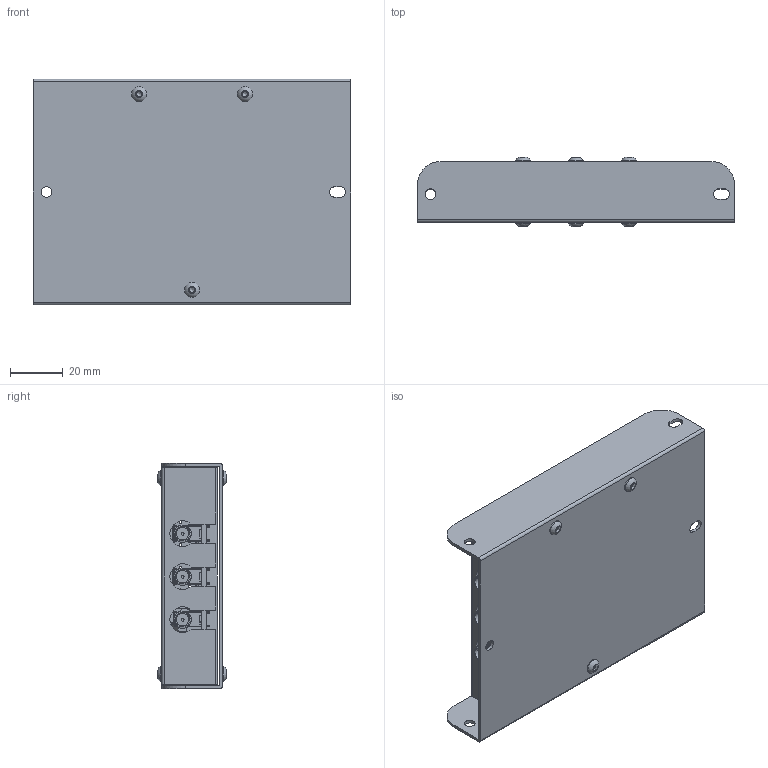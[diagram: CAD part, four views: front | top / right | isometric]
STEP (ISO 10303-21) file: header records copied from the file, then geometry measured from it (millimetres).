
FILE_DESCRIPTION (( 'STEP AP214' ), '1' );
FILE_NAME ('CuaETH.STEP', '2011-02-04T13:08:28', ( '' ), ( '' ), 'SwSTEP 2.0', 'SolidWorks 2011', '' );
FILE_SCHEMA (( 'AUTOMOTIVE_DESIGN' ));
Length unit declared in the file: millimetre
Products named in the file (1): CuaETH
Bounding box: 120 x 26.3 x 85.2 mm (x, y, z)
Surface area: 61567.9 mm2 (no closed solid volume)
Topology: 0 solids, 47 shells, 409 faces, 1896 edges, 1508 vertices
Faces by surface type: plane 250, cylinder 122, bspline 25, sphere 6, cone 6
Full cylindrical faces by diameter (mm): 1.016 x25, 2.3 x6, 4 x3, 4.7 x3, 5.45 x21, 5.7 x6
Entity records: 29775 total; most frequent: CARTESIAN_POINT 11223, DIRECTION 2832, ORIENTED_EDGE 2353, EDGE_CURVE 1774, VERTEX_POINT 1459, LINE 1256, VECTOR 1256, AXIS2_PLACEMENT_3D 788
